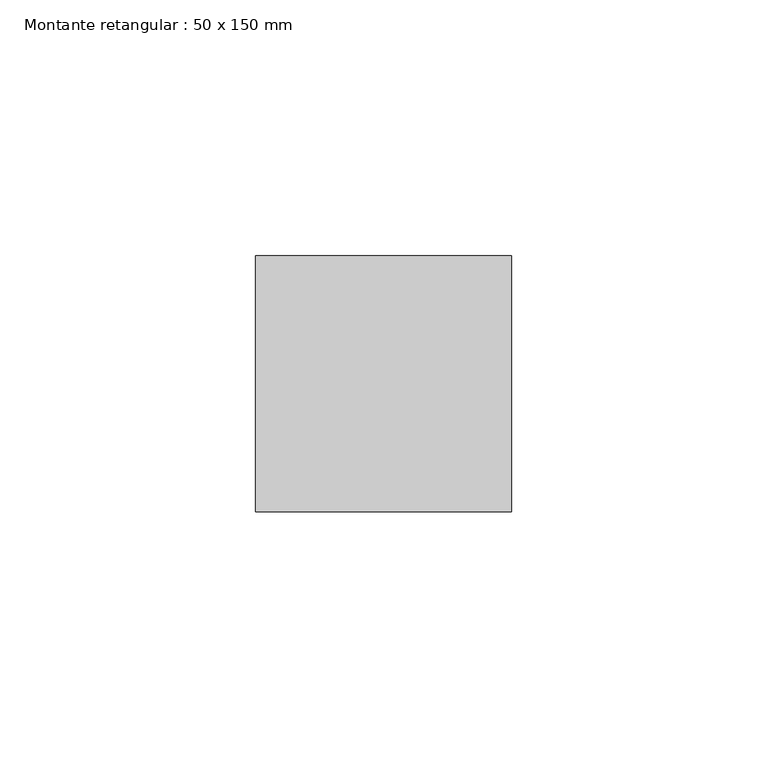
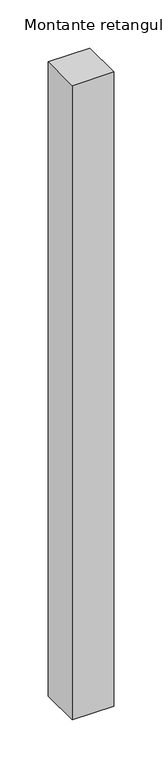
"""IFC4 building model written with IfcOpenShell, lengths in millimetres: member geometry, Montante retangular : 50 x 150 mm."""

from ifc_helpers import new_model, si_unit, frame, origin, place, context, project, spatial, polyline, outline, extrude, source, transform, mapped, element, save


def montante_retangular_50_x_150_mm_1070a8ea(model_context):
    return source(origin(), model_context, "Body", "SweptSolid", [
        extrude(outline(polyline([(0.0, 25.0), (0.0, -25.0), (-50.0, -25.0), (-50.0, 25.0), (0.0, 25.0)])), frame((0.0, 0.0, -805.0), z_axis=(0.0, 0.0, 1.0), x_axis=(1.0, 0.0, 0.0)), (0.0, 0.0, 1.0), 805.0),
    ])


if __name__ == "__main__":
    model = new_model("IFC4")
    model_context = context("Model", 3, world=origin())
    ifc_project = project(units=[si_unit("LENGTHUNIT", "METRE", prefix="MILLI")], contexts=[model_context])
    site = spatial("IfcSite", under=ifc_project)
    building = spatial("IfcBuilding", under=site)
    placement = place(None, origin())
    montante_retangular_50_x_150_mm_shape = montante_retangular_50_x_150_mm_1070a8ea(model_context)
    element("IfcMember", 1, ObjectType="Montante retangular : 50 x 150 mm", at=placement, inside=building, context=model_context, shape_type="MappedRepresentation", body=[
        mapped(montante_retangular_50_x_150_mm_shape, transform((0.0, 0.0, 0.0), x_axis=(1.0, 0.0, 0.0), y_axis=(0.0, 1.0, 0.0), z_axis=(0.0, 0.0, 1.0))),
    ])
    save(model, "model.ifc")
